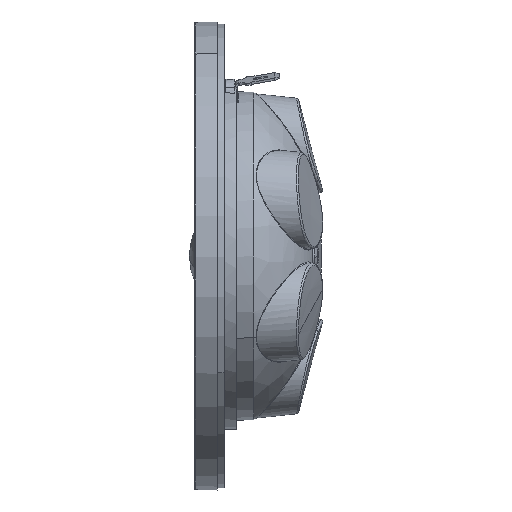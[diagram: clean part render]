
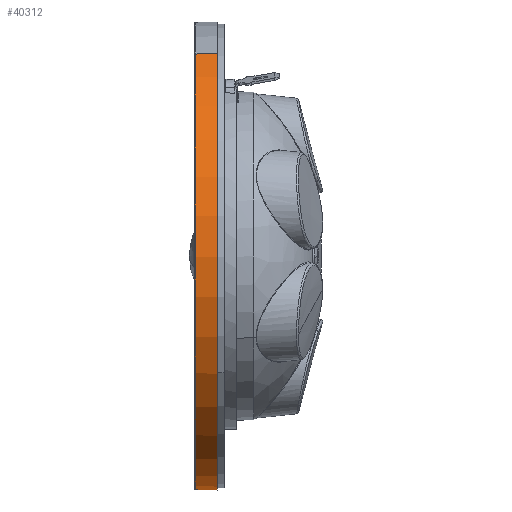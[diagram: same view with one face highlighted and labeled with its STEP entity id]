
A CAD part, left-side view. The second image highlights one B-rep face of the part: STEP entity #40312.
In plain terms, the highlighted conical face has half-angle 1 degrees and reference radius 51.983 mm.
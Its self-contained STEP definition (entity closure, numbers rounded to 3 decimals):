
#217 = LINE ( 'NONE', #23390, #33645 ) ;
#355 = CARTESIAN_POINT ( 'NONE',  ( 0., 12.924, 0. ) ) ;
#659 = CIRCLE ( 'NONE', #14162, 51.983 ) ;
#702 = CARTESIAN_POINT ( 'NONE',  ( 0., 8.021, 0. ) ) ;
#3345 = DIRECTION ( 'NONE',  ( 0.503, 0., -0.865 ) ) ;
#4735 = CARTESIAN_POINT ( 'NONE',  ( -26.124, 8.021, 44.942 ) ) ;
#5166 = CARTESIAN_POINT ( 'NONE',  ( 0., 8.021, 0. ) ) ;
#5527 = VECTOR ( 'NONE', #7855, 1000. ) ;
#7855 = DIRECTION ( 'NONE',  ( -0.009, -1., 0.015 ) ) ;
#7860 = EDGE_CURVE ( 'NONE', #37163, #21298, #22559, .T. ) ;
#8049 = ORIENTED_EDGE ( 'NONE', *, *, #7860, .T. ) ;
#11215 = LINE ( 'NONE', #4735, #5527 ) ;
#13195 = EDGE_LOOP ( 'NONE', ( #31304, #8049, #13686, #22276 ) ) ;
#13395 = DIRECTION ( 'NONE',  ( 0., -1., 0. ) ) ;
#13686 = ORIENTED_EDGE ( 'NONE', *, *, #16966, .T. ) ;
#14162 = AXIS2_PLACEMENT_3D ( 'NONE', #702, #13395, #3345 ) ;
#15830 = CARTESIAN_POINT ( 'NONE',  ( -26.081, 12.924, 44.868 ) ) ;
#16086 = FACE_OUTER_BOUND ( 'NONE', #13195, .T. ) ;
#16966 = EDGE_CURVE ( 'NONE', #21298, #28490, #217, .T. ) ;
#18127 = CONICAL_SURFACE ( 'NONE', #20954, 51.983, 0.017 ) ;
#19426 = DIRECTION ( 'NONE',  ( 0.503, 0., -0.865 ) ) ;
#20494 = DIRECTION ( 'NONE',  ( 0.009, -1., -0.015 ) ) ;
#20954 = AXIS2_PLACEMENT_3D ( 'NONE', #5166, #43482, #19426 ) ;
#21298 = VERTEX_POINT ( 'NONE', #41314 ) ;
#22276 = ORIENTED_EDGE ( 'NONE', *, *, #26526, .F. ) ;
#22559 = CIRCLE ( 'NONE', #32497, 51.897 ) ;
#23390 = CARTESIAN_POINT ( 'NONE',  ( 26.124, 8.021, -44.942 ) ) ;
#25585 = EDGE_CURVE ( 'NONE', #37163, #38574, #11215, .T. ) ;
#26526 = EDGE_CURVE ( 'NONE', #38574, #28490, #659, .T. ) ;
#26631 = DIRECTION ( 'NONE',  ( 0., -1., 0. ) ) ;
#28490 = VERTEX_POINT ( 'NONE', #43309 ) ;
#31304 = ORIENTED_EDGE ( 'NONE', *, *, #25585, .F. ) ;
#32497 = AXIS2_PLACEMENT_3D ( 'NONE', #355, #26631, #40225 ) ;
#33645 = VECTOR ( 'NONE', #20494, 1000. ) ;
#37163 = VERTEX_POINT ( 'NONE', #15830 ) ;
#38574 = VERTEX_POINT ( 'NONE', #41202 ) ;
#40225 = DIRECTION ( 'NONE',  ( 0.503, 0., -0.865 ) ) ;
#40312 = ADVANCED_FACE ( 'NONE', ( #16086 ), #18127, .T. ) ;
#41202 = CARTESIAN_POINT ( 'NONE',  ( -26.124, 8.021, 44.942 ) ) ;
#41314 = CARTESIAN_POINT ( 'NONE',  ( 26.081, 12.924, -44.868 ) ) ;
#43309 = CARTESIAN_POINT ( 'NONE',  ( 26.124, 8.021, -44.942 ) ) ;
#43482 = DIRECTION ( 'NONE',  ( 0., -1., 0. ) ) ;
